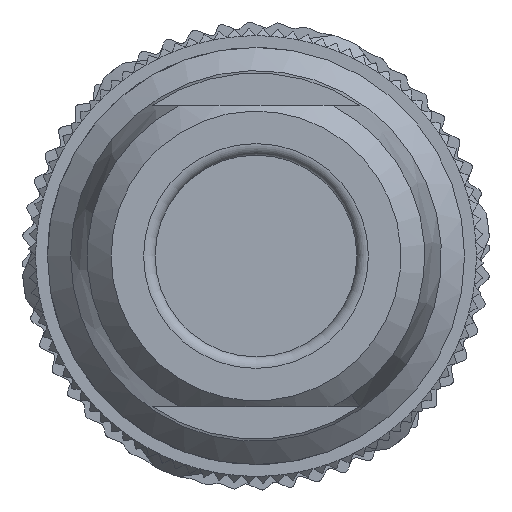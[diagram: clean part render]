
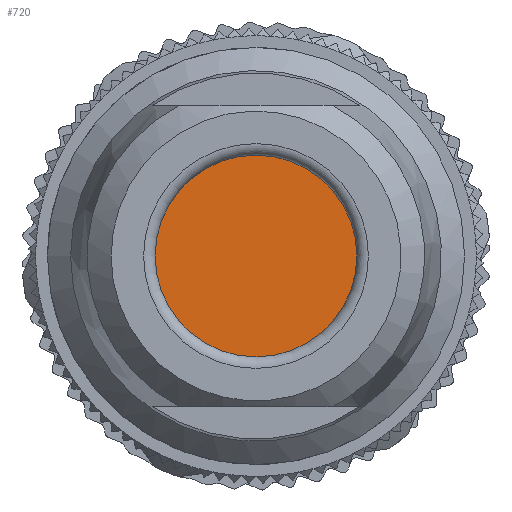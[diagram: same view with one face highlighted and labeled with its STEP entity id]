
A CAD part, left-side view. The second image highlights one B-rep face of the part: STEP entity #720.
In plain terms, the highlighted planar face has unit normal (-1, 0, 0).
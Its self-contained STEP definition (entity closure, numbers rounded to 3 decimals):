
#720=ADVANCED_FACE('',(#1979),#1575,.T.);
#1575=PLANE('',#14835);
#1979=FACE_OUTER_BOUND('',#2877,.T.);
#2877=EDGE_LOOP('',(#5508));
#4514=CIRCLE('',#14805,4.35);
#5508=ORIENTED_EDGE('',*,*,#11096,.T.);
#9691=VERTEX_POINT('',#23352);
#11096=EDGE_CURVE('',#9691,#9691,#4514,.T.);
#14805=AXIS2_PLACEMENT_3D('',#23351,#16469,#16470);
#14835=AXIS2_PLACEMENT_3D('',#23429,#16531,#16532);
#16469=DIRECTION('',(-1.,0.,0.));
#16470=DIRECTION('',(0.,0.,1.));
#16531=DIRECTION('',(-1.,0.,0.));
#16532=DIRECTION('',(0.,0.,1.));
#23351=CARTESIAN_POINT('',(-60.431,0.,0.));
#23352=CARTESIAN_POINT('',(-60.431,0.,4.35));
#23429=CARTESIAN_POINT('',(-60.431,0.,0.));
